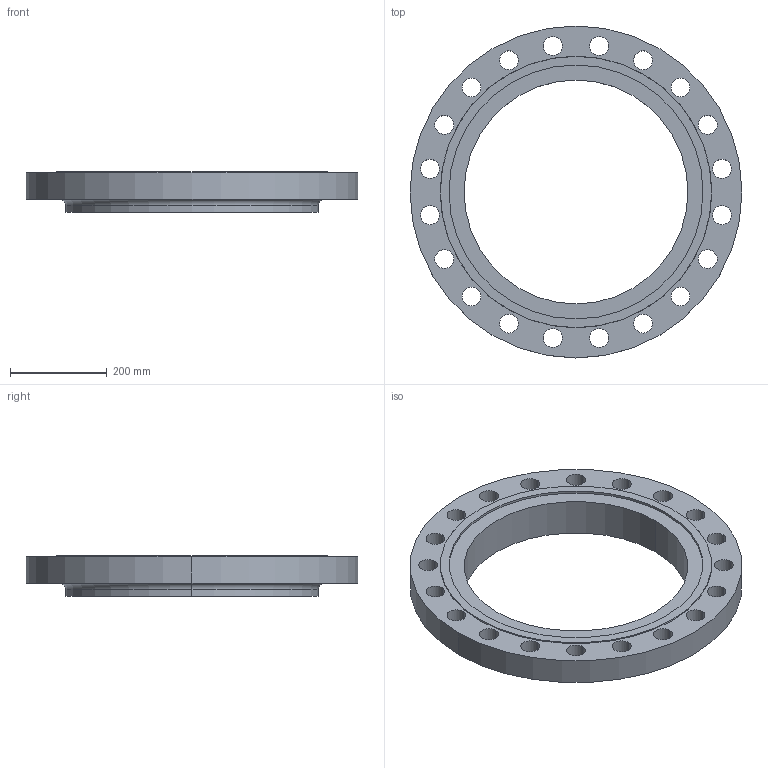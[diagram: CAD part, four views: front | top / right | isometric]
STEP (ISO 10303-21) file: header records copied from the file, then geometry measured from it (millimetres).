
FILE_DESCRIPTION (( 'STEP AP214' ), '1' );
FILE_NAME ('PN40 DN450 Type 12 - Type F Face.STEP', '2018-12-29T02:35:06', ( '' ), ( '' ), 'SwSTEP 2.0', 'SolidWorks 2019', '' );
FILE_SCHEMA (( 'AUTOMOTIVE_DESIGN' ));
Length unit declared in the file: millimetre
Products named in the file (1): PN40 DN450 Type 12 - Type F Face
Bounding box: 685 x 685 x 84 mm (x, y, z)
Volume: 10955962.5 mm3; surface area: 768872.6 mm2
Topology: 1 solids, 1 shells, 57 faces, 154 edges, 102 vertices
Faces by surface type: cylinder 48, plane 5, torus 2, cone 2
Entity records: 1974 total; most frequent: DIRECTION 374, CARTESIAN_POINT 314, ORIENTED_EDGE 308, AXIS2_PLACEMENT_3D 162, EDGE_CURVE 154, CIRCLE 104, VERTEX_POINT 102, EDGE_LOOP 102
